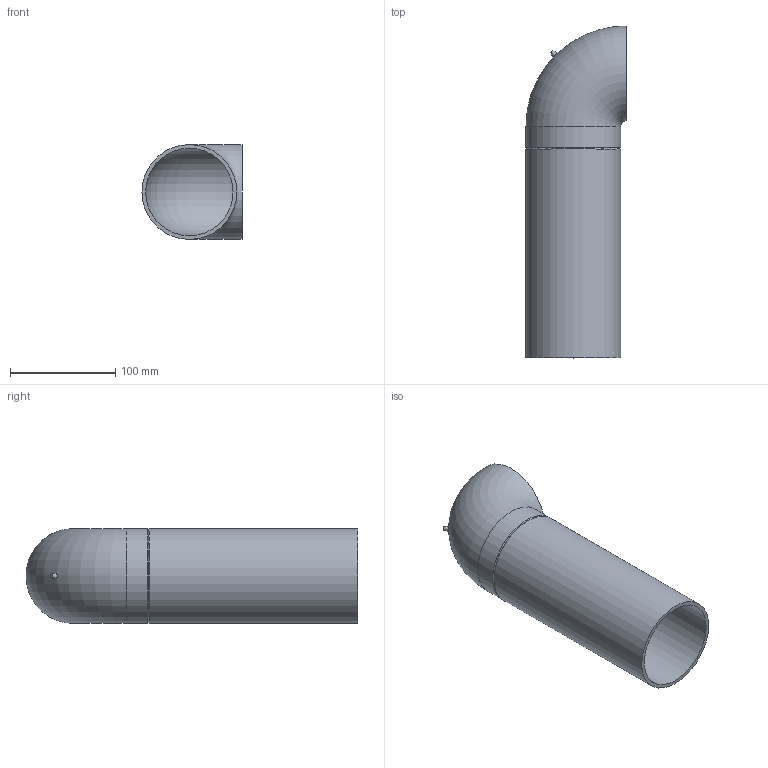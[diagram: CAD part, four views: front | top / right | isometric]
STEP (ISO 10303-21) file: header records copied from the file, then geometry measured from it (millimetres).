
FILE_DESCRIPTION(/* description */ (''),/* implementation_level */ '2;1');
FILE_NAME(/* name */ 'Z:\Geberit\Export\NewStep\366876.stp',/* time_stamp */ '2014-04-02T07:55:02+02:00',/* author */ ('bruh'),/* organization */ (''),/* preprocessor_version */ 'ST-DEVELOPER v15.2',/* originating_system */ 'Autodesk Inventor 2014',/* authorisation */ '');
FILE_SCHEMA (('AUTOMOTIVE_DESIGN { 1 0 10303 214 3 1 1 }'));
Length unit declared in the file: millimetre
Products named in the file (1): 366876
Bounding box: 95 x 315 x 90 mm (x, y, z)
Volume: 283792.5 mm3; surface area: 164419.2 mm2
Topology: 1 solids, 1 shells, 11 faces, 22 edges, 13 vertices
Faces by surface type: cone 3, plane 3, cylinder 3, torus 2
Full cylindrical faces by diameter (mm): 83 x1, 90 x2
Entity records: 298 total; most frequent: CARTESIAN_POINT 75, DIRECTION 44, EDGE_LOOP 22, ORIENTED_EDGE 22, AXIS2_PLACEMENT_3D 22, FACE_BOUND 13, STYLED_ITEM 12, VERTEX_POINT 11
